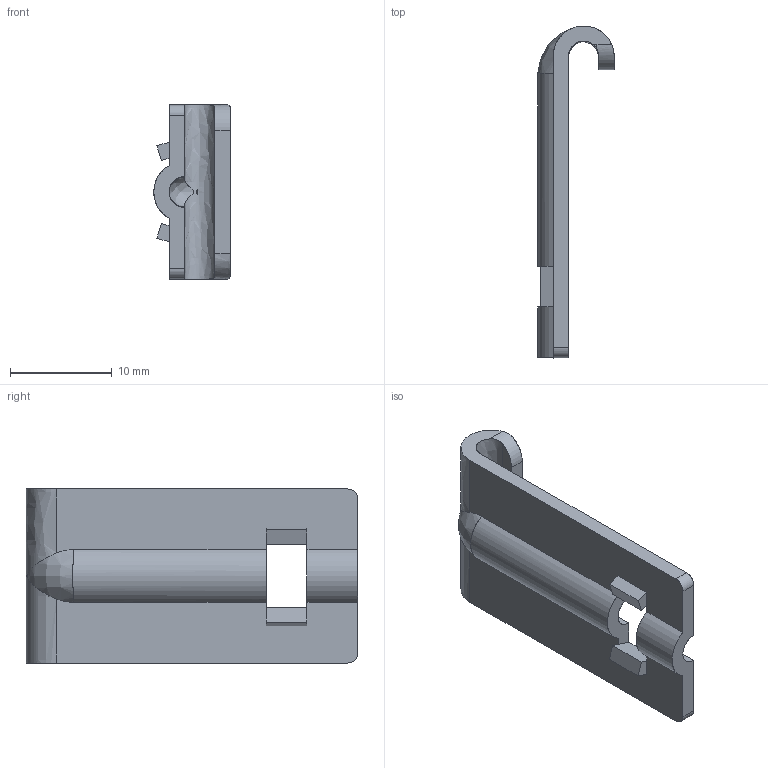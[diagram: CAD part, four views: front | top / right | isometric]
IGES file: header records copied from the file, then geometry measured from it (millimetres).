
Start section: SolidWorks IGES FILE using analytic representation for surfaces
Global section: file name: C:\Documents and Settings\lecoutey\Bureau\GR 62\62.030.10.IGS; native system: SolidWorks 2004 by SolidWorks Corporation; preprocessor: Version 5.3; author: lecoutey; date: 050330.160247; units: millimetre
Bounding box: 7.5 x 32.6 x 17.1 mm (x, y, z)
Surface area: 1532.9 mm2 (no closed solid volume)
Topology: 0 solids, 0 shells, 38 faces, 508 edges, 508 vertices
Faces by surface type: bspline 28, revolution 10
